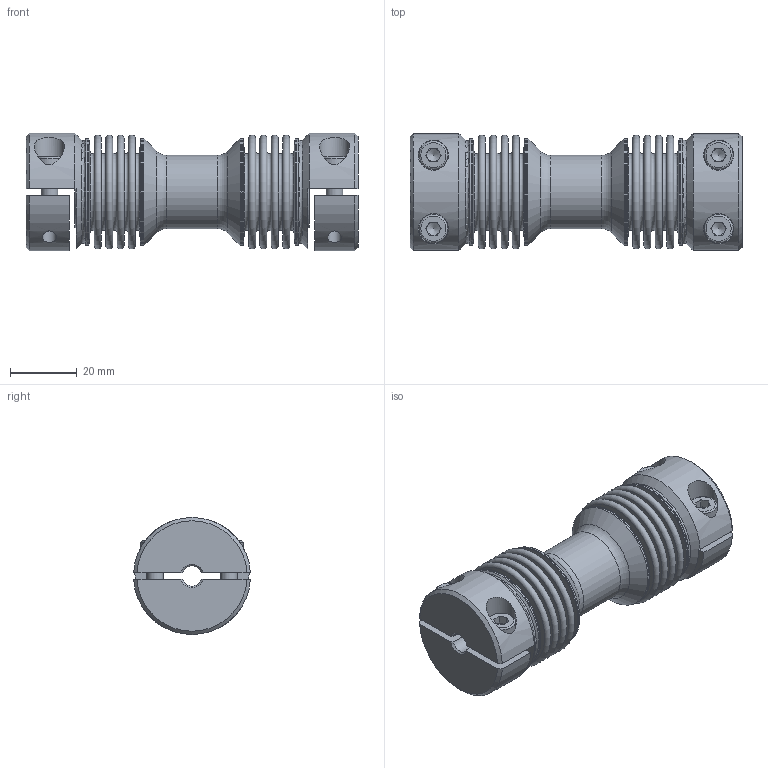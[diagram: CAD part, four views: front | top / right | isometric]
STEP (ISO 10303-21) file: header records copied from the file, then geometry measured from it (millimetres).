
FILE_DESCRIPTION(/* description */ ('Unknown'),/* implementation_level */ '2;1');
FILE_NAME(/* name */ 'WDZ16-step',/* time_stamp */ '2022-03-23T15:16:52+01:00',/* author */ ('Unknown'),/* organization */ ('Unknown'),/* preprocessor_version */ 'ST-DEVELOPER v16.7',/* originating_system */ 'DEX',/* authorisation */ $);
FILE_SCHEMA (('AUTOMOTIVE_DESIGN {1 0 10303 214 3 1 1}'));
Length unit declared in the file: millimetre
Products named in the file (5): WDZ16-step; 27024343; 20716961; 24224341; KT102397
Assembly tree (9 placements, depth 2):
  WDZ16-step
    27024343
    20716961  x2
    24224341  x2
    KT102397  x4
Bounding box: 99.24 x 34.94 x 35 mm (x, y, z)
Volume: 41677.3 mm3; surface area: 46776.8 mm2
Topology: 11 solids, 11 shells, 256 faces, 537 edges, 343 vertices
Faces by surface type: plane 124, torus 50, cylinder 44, cone 38
Full cylindrical faces by diameter (mm): 4.134 x4, 5 x4, 5.4 x4, 8.5 x4, 9 x4, 18 x1, 22 x3, 31.2 x4, 32 x8
Entity records: 3004 total; most frequent: CARTESIAN_POINT 572, DIRECTION 512, ORIENTED_EDGE 342, AXIS2_PLACEMENT_3D 235, FACE_BOUND 211, EDGE_LOOP 210, EDGE_CURVE 171, VERTEX_POINT 142
